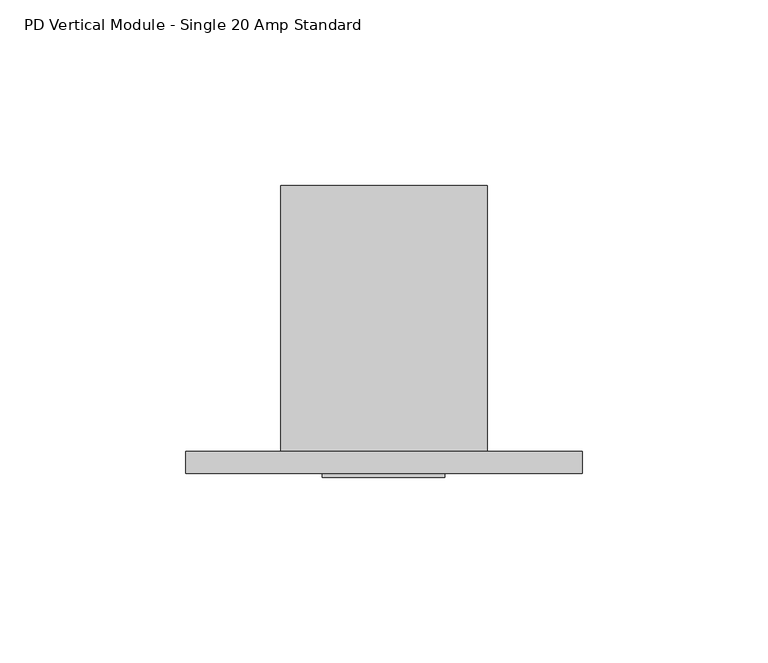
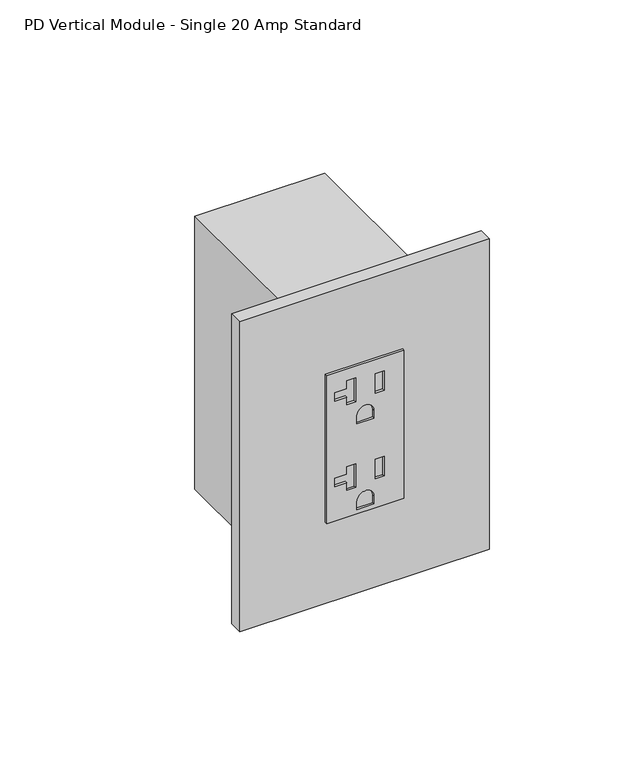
"""IFC4 building model written with IfcOpenShell, lengths in millimetres: proxy geometry, Electrical-Teknion-EPDMS_Vertical_Power_Data_Single-R2019 : PD Vertical Module - Single 20 Amp Standard."""

import ifcopenshell
import ifcopenshell.guid

model = None  # the IFC model being written
_history = None  # IfcOwnerHistory: only IFC2X3 demands one
_inside = {}  # id of a spatial element -> (the spatial element, [elements in it])
_under = {}  # id of a project, library or spatial element -> (it, [spatial elements below it])
_declared = {}  # id of a project -> (the project, [libraries it declares])
_typed = {}  # id of a type object -> (the type object, [elements of that type])
_made_of = {}  # id of a material, layer set ... -> (it, [elements and type objects made of it])


def new_model(schema):
    """Start an empty IFC model of exactly this schema.

    Asked for "IFC4X3", IfcOpenShell would pick the latest addendum, in which some entities
    have other attributes; the version numbers below select the first issue.
    IFC2X3 requires an IfcOwnerHistory on every rooted entity: one is made here for all.
    """
    global model, _history
    if schema == "IFC4X3":
        model = ifcopenshell.file(schema_version=(4, 3, 0, 0))
    else:
        model = ifcopenshell.file(schema=schema)
    _inside.clear()
    _under.clear()
    _declared.clear()
    _typed.clear()
    _made_of.clear()
    _history = None
    if model.schema == "IFC2X3":
        org = make("IfcOrganization", Name="unknown")
        user = make(
            "IfcPersonAndOrganization",
            ThePerson=make("IfcPerson", FamilyName="unknown"),
            TheOrganization=org,
        )
        app = make(
            "IfcApplication",
            ApplicationDeveloper=org,
            Version="unknown",
            ApplicationFullName="unknown",
            ApplicationIdentifier="unknown",
        )
        _history = make(
            "IfcOwnerHistory",
            OwningUser=user,
            OwningApplication=app,
            ChangeAction="ADDED",
            CreationDate=0,
        )
    return model


def make(cls, **values):
    """One entity of the class cls with the attributes given. An attribute that is None is left unset."""
    return model.create_entity(
        cls, **{name: value for name, value in values.items() if value is not None}
    )


def rooted(cls, **values):
    """An entity with a GlobalId (a new one), such as an element, a storey or a relation."""
    return make(cls, GlobalId=ifcopenshell.guid.new(), OwnerHistory=_history, **values)


def si_unit(unit_type, name, prefix=None):
    """IfcSIUnit, for example si_unit("LENGTHUNIT", "METRE", prefix="MILLI")."""
    return make("IfcSIUnit", UnitType=unit_type, Prefix=prefix, Name=name)


def assignment(units):
    """IfcUnitAssignment: the units of a project."""
    return None if units is None else make("IfcUnitAssignment", Units=units)


def point(xyz):
    """IfcCartesianPoint."""
    return None if xyz is None else make("IfcCartesianPoint", Coordinates=xyz)


def direction(xyz):
    """IfcDirection."""
    return None if xyz is None else make("IfcDirection", DirectionRatios=xyz)


def frame(location, z_axis=None, x_axis=None):
    """IfcAxis2Placement3D, a coordinate frame: its origin and axes. An axis left out is left unset."""
    return make(
        "IfcAxis2Placement3D",
        Location=point(location),
        Axis=direction(z_axis),
        RefDirection=direction(x_axis),
    )


def frame_2d(location, x_axis=None):
    """IfcAxis2Placement2D, a coordinate frame in the plane: its origin and x axis."""
    return make(
        "IfcAxis2Placement2D", Location=point(location), RefDirection=direction(x_axis)
    )


def origin():
    """The frame at (0, 0, 0) with its axes left unset."""
    return frame((0.0, 0.0, 0.0))


def place(relative_to, where):
    """IfcLocalPlacement: puts the frame where relative to a parent placement (None: the world)."""
    return make(
        "IfcLocalPlacement", PlacementRelTo=relative_to, RelativePlacement=where
    )


def context(
    kind, dimensions, precision=None, world=None, true_north=None, identifier=None
):
    """IfcGeometricRepresentationContext, for example the 3D "Model" context."""
    return make(
        "IfcGeometricRepresentationContext",
        ContextIdentifier=identifier,
        ContextType=kind,
        CoordinateSpaceDimension=dimensions,
        Precision=precision,
        WorldCoordinateSystem=world,
        TrueNorth=true_north,
    )


def project(units=None, contexts=None):
    """IfcProject with its units and contexts."""
    return rooted(
        "IfcProject",
        Name="project",
        RepresentationContexts=contexts,
        UnitsInContext=assignment(units),
    )


def spatial(cls, under=None, at=None, **own):
    """A site, building, storey or space (cls), placed at a placement, below another one or the project."""
    s = rooted(cls, ObjectPlacement=at, **own)
    if under is not None:
        _under.setdefault(under.id(), (under, []))[1].append(s)
    return s


def polyline(points):
    """IfcPolyline through the points."""
    return make("IfcPolyline", Points=[point(p) for p in points])


def circle_curve(where, radius):
    """IfcCircle in the frame where."""
    return make("IfcCircle", Position=where, Radius=radius)


def trimmed(basis, trim1, trim2, sense, master):
    """IfcTrimmedCurve: the piece of a basis curve between two trims."""
    return make(
        "IfcTrimmedCurve",
        BasisCurve=basis,
        Trim1=trim1,
        Trim2=trim2,
        SenseAgreement=sense,
        MasterRepresentation=master,
    )


def segment(curve, same_sense, transition):
    """IfcCompositeCurveSegment."""
    return make(
        "IfcCompositeCurveSegment",
        Transition=transition,
        SameSense=same_sense,
        ParentCurve=curve,
    )


def composite_curve(segments, self_intersect=None):
    """IfcCompositeCurve: segments joined end to end."""
    return make("IfcCompositeCurve", Segments=segments, SelfIntersect=self_intersect)


def outline(outer, holes=None, kind="AREA"):
    """IfcArbitraryClosedProfileDef: a profile drawn as a closed curve; with holes, ...WithVoids."""
    if holes is None:
        return make("IfcArbitraryClosedProfileDef", ProfileType=kind, OuterCurve=outer)
    return make(
        "IfcArbitraryProfileDefWithVoids",
        ProfileType=kind,
        OuterCurve=outer,
        InnerCurves=holes,
    )


def extrude(swept, where, along, depth):
    """IfcExtrudedAreaSolid: the profile swept, set in the frame where, extruded along a direction by depth."""
    return make(
        "IfcExtrudedAreaSolid",
        SweptArea=swept,
        Position=where,
        ExtrudedDirection=direction(along),
        Depth=depth,
    )


def shape(context_of_items, identifier, shape_type, items):
    """IfcShapeRepresentation: the items that make up one representation, for example the "Body"."""
    return make(
        "IfcShapeRepresentation",
        ContextOfItems=context_of_items,
        RepresentationIdentifier=identifier,
        RepresentationType=shape_type,
        Items=items,
    )


def source(mapping_origin, context_of_items, identifier, shape_type, items):
    """IfcRepresentationMap: a shape defined once, which mapped items show again and again."""
    return make(
        "IfcRepresentationMap",
        MappingOrigin=mapping_origin,
        MappedRepresentation=shape(context_of_items, identifier, shape_type, items),
    )


def transform(
    local_origin,
    x_axis=None,
    y_axis=None,
    z_axis=None,
    scale=None,
    scale2=None,
    scale3=None,
    uniform=True,
):
    """IfcCartesianTransformationOperator3D, or its non-uniform kind. x_axis, y_axis, z_axis: its Axis1, 2, 3."""
    if uniform:
        return make(
            "IfcCartesianTransformationOperator3D",
            Axis1=direction(x_axis),
            Axis2=direction(y_axis),
            LocalOrigin=point(local_origin),
            Scale=scale,
            Axis3=direction(z_axis),
        )
    return make(
        "IfcCartesianTransformationOperator3DnonUniform",
        Axis1=direction(x_axis),
        Axis2=direction(y_axis),
        LocalOrigin=point(local_origin),
        Scale=scale,
        Axis3=direction(z_axis),
        Scale2=scale2,
        Scale3=scale3,
    )


def mapped(mapping_source, mapping_target):
    """IfcMappedItem: shows the shape of a source again, moved by a transform."""
    return make(
        "IfcMappedItem", MappingSource=mapping_source, MappingTarget=mapping_target
    )


def made_of(thing, what):
    """Note that an element or type object is made of a material, layer set ...; save() writes the relation."""
    if what is not None:
        _made_of.setdefault(what.id(), (what, []))[1].append(thing)
    return thing


def element(
    cls,
    number,
    at=None,
    inside=None,
    cuts=None,
    type_object=None,
    material=None,
    context=None,
    identifier="Body",
    shape_type=None,
    held_by="IfcProductDefinitionShape",
    body=None,
    shapes=None,
    **own,
):
    """One element of the class cls, such as IfcWall. Its Tag is "e" and its number.

    at: its placement. inside: the storey or other place that contains it. cuts: it is an
    opening in that element (IfcRelVoidsElement). A single representation is given by context,
    identifier, shape_type and body (its items); several are given by shapes. held_by: the class
    of the entity that holds the representations. save() writes the other relations.
    """
    e = rooted(cls, Tag="e%d" % number, ObjectPlacement=at, **own)
    if body is not None:
        shapes = [shape(context, identifier, shape_type, body)]
    if shapes is not None:
        e.Representation = make(held_by, Representations=shapes)
    if inside is not None:
        _inside.setdefault(inside.id(), (inside, []))[1].append(e)
    if cuts is not None:
        rooted(
            "IfcRelVoidsElement", RelatingBuildingElement=cuts, RelatedOpeningElement=e
        )
    if type_object is not None:
        _typed.setdefault(type_object.id(), (type_object, []))[1].append(e)
    return made_of(e, material)


def aggregate(whole, parts):
    """IfcRelAggregates: a whole, such as a stair, and the parts it consists of."""
    return rooted("IfcRelAggregates", RelatingObject=whole, RelatedObjects=parts)


def save(model, path):
    """Write the relations noted so far, then the file.

    IfcRelAggregates (storeys below a building ...), IfcRelContainedInSpatialStructure (elements
    in a storey), IfcRelDefinesByType, IfcRelAssociatesMaterial and IfcRelDeclares: one each for
    every whole, place, type object, material and project.
    """
    for whole, parts in _under.values():
        aggregate(whole, parts)
    for where, things in _inside.values():
        rooted(
            "IfcRelContainedInSpatialStructure",
            RelatedElements=things,
            RelatingStructure=where,
        )
    for kind, things in _typed.values():
        rooted("IfcRelDefinesByType", RelatedObjects=things, RelatingType=kind)
    for what, things in _made_of.values():
        rooted("IfcRelAssociatesMaterial", RelatedObjects=things, RelatingMaterial=what)
    for by, libraries in _declared.values():
        rooted("IfcRelDeclares", RelatingContext=by, RelatedDefinitions=libraries)
    model.write(path)


def pd_vertical_module_single_20_amp_standard_ca99faa8(model_context):
    return source(origin(), model_context, "Body", "SweptSolid", [
        extrude(outline(polyline([(490.6772, 44.0944), (490.6772, 11.0998), (423.7228, 11.0998), (423.7228, 44.0944), (490.6772, 44.0944)]), holes=[polyline([(485.2924, 23.4442), (474.472, 23.4442), (474.472, 19.6088), (477.9518, 19.6088), (477.9518, 14.5034), (481.8126, 14.5034), (481.8126, 19.6088), (485.2924, 19.6088), (485.2924, 23.4442)]), polyline([(484.3145, 35.6108), (475.4499, 35.6108), (475.4499, 31.7754), (484.3145, 31.7754), (484.3145, 35.6108)]), composite_curve([segment(polyline([(464.2866, 31.2293), (464.2866, 23.9649), (467.9188, 23.9649)]), True, "CONTINUOUS"), segment(trimmed(circle_curve(frame_2d((467.9188, 27.5971)), 3.6322), [point((467.9188, 23.9649))], [point((467.9188, 31.2293))], True, "CARTESIAN"), True, "CONTINUOUS"), segment(polyline([(467.9188, 31.2293), (464.2866, 31.2293)]), True, "CONTINUOUS")], self_intersect=False), polyline([(446.5574, 23.4442), (435.737, 23.4442), (435.737, 19.6088), (439.2168, 19.6088), (439.2168, 14.5034), (443.0776, 14.5034), (443.0776, 19.6088), (446.5574, 19.6088), (446.5574, 23.4442)]), polyline([(445.5795, 35.6108), (436.7149, 35.6108), (436.7149, 31.7754), (445.5795, 31.7754), (445.5795, 35.6108)]), composite_curve([segment(polyline([(425.5516, 31.2293), (425.5516, 23.9649), (429.1838, 23.9649)]), True, "CONTINUOUS"), segment(trimmed(circle_curve(frame_2d((429.1838, 27.5971)), 3.6322), [point((429.1838, 23.9649))], [point((429.1838, 31.2293))], True, "CARTESIAN"), True, "CONTINUOUS"), segment(polyline([(429.1838, 31.2293), (425.5516, 31.2293)]), True, "CONTINUOUS")], self_intersect=False)]), frame((0.0, -6.9294746, 0.0), z_axis=(0.0, 1.0, 0.0), x_axis=(0.0, 0.0, 1.0)), (0.0, 0.0, 1.0), 1.0366746),
        extrude(outline(polyline([(-25.6794, 0.0), (81.2292, 0.0), (81.2292, -5.8928), (-25.6794, -5.8928), (-25.6794, 0.0)])), frame((0.0, 0.0, 387.0198), z_axis=(0.0, 0.0, 1.0), x_axis=(1.0, 0.0, 0.0)), (0.0, 0.0, 1.0), 140.3604),
        extrude(outline(polyline([(55.5498, 0.0), (0.0, 0.0), (0.0, 71.7296), (55.5498, 71.7296), (55.5498, 0.0)])), frame((0.0, 0.0, 395.4526), z_axis=(0.0, 0.0, 1.0), x_axis=(1.0, 0.0, 0.0)), (0.0, 0.0, 1.0), 123.4948),
    ])


if __name__ == "__main__":
    model = new_model("IFC4")
    model_context = context("Model", 3, world=origin())
    ifc_project = project(units=[si_unit("LENGTHUNIT", "METRE", prefix="MILLI")], contexts=[model_context])
    site = spatial("IfcSite", under=ifc_project)
    building = spatial("IfcBuilding", under=site)
    placement = place(None, origin())
    pd_vertical_module_single_20_amp_standard_shape = pd_vertical_module_single_20_amp_standard_ca99faa8(model_context)
    element("IfcBuildingElementProxy", 1, Name="Electrical-Teknion-EPDMS_Vertical_Power_Data_Single-R2019 : PD Vertical Module - Single 20 Amp Standard", ObjectType="Electrical-Teknion-EPDMS_Vertical_Power_Data_Single-R2019 : PD Vertical Module - Single 20 Amp Standard", at=placement, inside=building, context=model_context, shape_type="MappedRepresentation", body=[
        mapped(pd_vertical_module_single_20_amp_standard_shape, transform((0.0, 0.0, 0.0), x_axis=(1.0, 0.0, 0.0), y_axis=(0.0, 1.0, 0.0), z_axis=(0.0, 0.0, 1.0))),
    ])
    save(model, "model.ifc")
